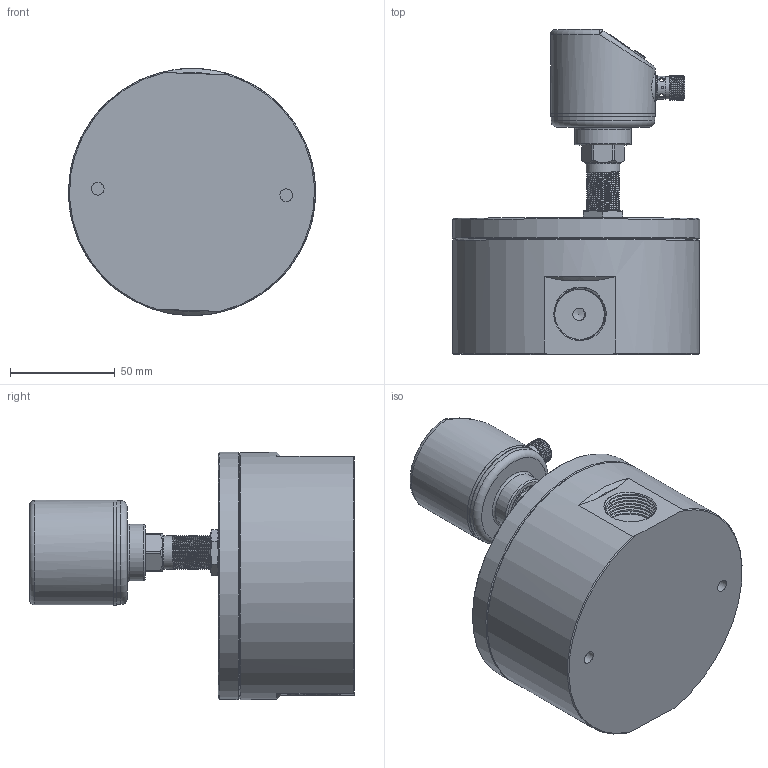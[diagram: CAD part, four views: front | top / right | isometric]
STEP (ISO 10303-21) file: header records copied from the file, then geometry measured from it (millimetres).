
FILE_DESCRIPTION (( 'STEP AP214' ), '1' );
FILE_NAME ('M15.STEP', '2024-12-03T06:11:41', ( '' ), ( '' ), 'SwSTEP 2.0', 'SolidWorks 2020', '' );
FILE_SCHEMA (( 'AUTOMOTIVE_DESIGN' ));
Length unit declared in the file: millimetre
Products named in the file (13): 1; 揤薯奻裔; 恦謫抻芛5; PVC躇猾菜; 滅阨諉芛褲极1; 揤薯珆尨欶; 喘謫霜講數-M15; 抻芛俋蹟恇G1-4; 2; M6蹟佪; M15; M16蹟譫; 偌瑩簽
Assembly tree (21 placements, depth 3):
  M15
    揤薯奻裔
    揤薯珆尨欶
    滅阨諉芛褲极1
    偌瑩簽  x3
    PVC躇猾菜
    抻芛俋蹟恇G1-4
    恦謫抻芛5
    喘謫霜講數-M15
      1
      2
      M6蹟佪  x8
    M16蹟譫
Bounding box: 117.95 x 155 x 117.97 mm (x, y, z)
Volume: 720045.2 mm3; surface area: 112561.8 mm2
Topology: 20 solids, 20 shells, 2537 faces, 7175 edges, 4751 vertices
Faces by surface type: plane 1730, cylinder 673, cone 97, bspline 21, torus 12, sphere 4
Full cylindrical faces by diameter (mm): 1 x4, 1.2 x3, 1.8 x1, 2 x5, 2.5 x7, 2.8 x1, 4.3 x3, 4.5 x6, 4.915 x8, 6 x12, 7 x15, 7.2 x1, 8.5 x1, 9.75 x1, 10.5 x9, 10.7 x1, 10.8 x1, 10.9 x1, 11 x2, 12 x1, 14 x1, 14.3 x1, 14.4 x1, 14.8 x1, 16 x29, 17.34 x2, 17.4 x1, 21.24 x1, 21.3 x1, 24 x1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
Entity records: 33006 total; most frequent: CARTESIAN_POINT 17440, DIRECTION 2973, ORIENTED_EDGE 2972, EDGE_CURVE 1486, AXIS2_PLACEMENT_3D 1124, VERTEX_POINT 1047, EDGE_LOOP 889, FACE_OUTER_BOUND 732
